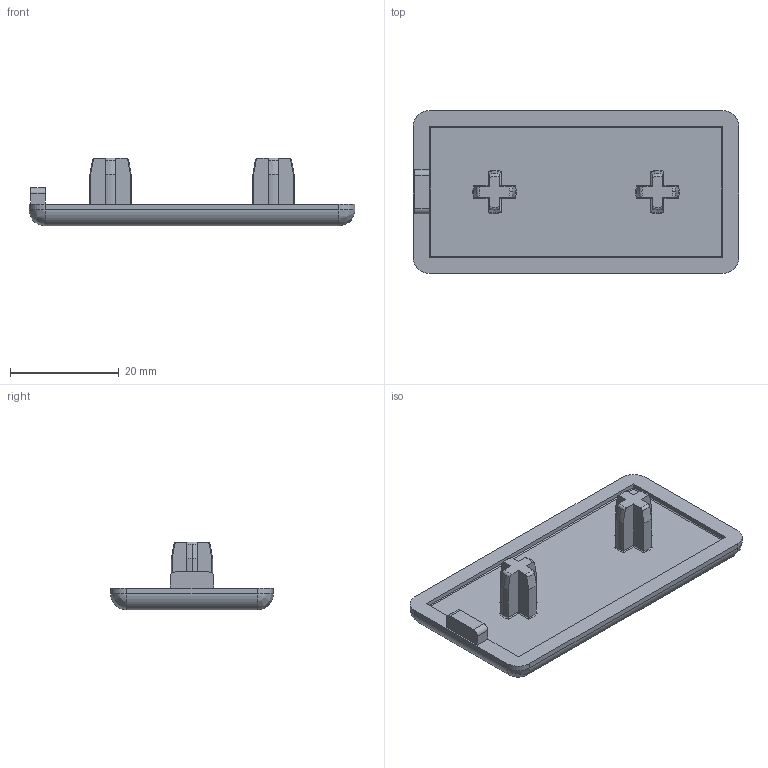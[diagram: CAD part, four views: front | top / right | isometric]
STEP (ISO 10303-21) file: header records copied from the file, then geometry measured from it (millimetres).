
FILE_DESCRIPTION (( 'STEP AP203' ), '1' );
FILE_NAME ('401011_Abdeckkappe 30x60 Nut 8.step', '2022-05-13T07:00:58', ( '' ), ( '' ), 'SwSTEP 2.0', 'SolidWorks 2021', '' );
FILE_SCHEMA (( 'CONFIG_CONTROL_DESIGN' ));
Length unit declared in the file: millimetre
Products named in the file (1): 401011_Abdeckkappe 30x60 Nut 8
Bounding box: 60 x 30 x 12.5 mm (x, y, z)
Volume: 6091.1 mm3; surface area: 4789.2 mm2
Topology: 1 solids, 1 shells, 107 faces, 268 edges, 162 vertices
Faces by surface type: cylinder 40, plane 33, bspline 24, cone 10
Entity records: 3715 total; most frequent: CARTESIAN_POINT 1344, ORIENTED_EDGE 528, DIRECTION 410, EDGE_CURVE 264, VERTEX_POINT 162, AXIS2_PLACEMENT_3D 142, LINE 126, VECTOR 126
